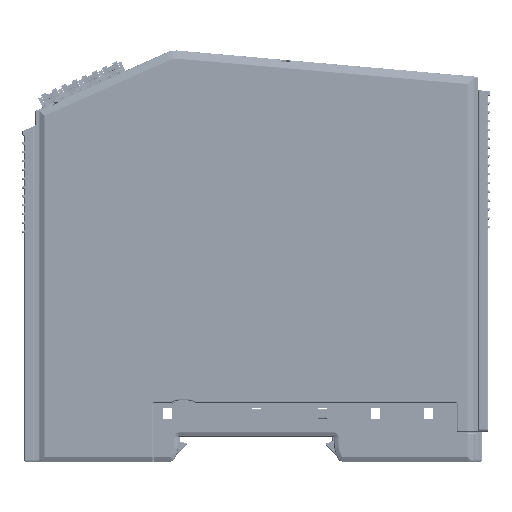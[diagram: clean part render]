
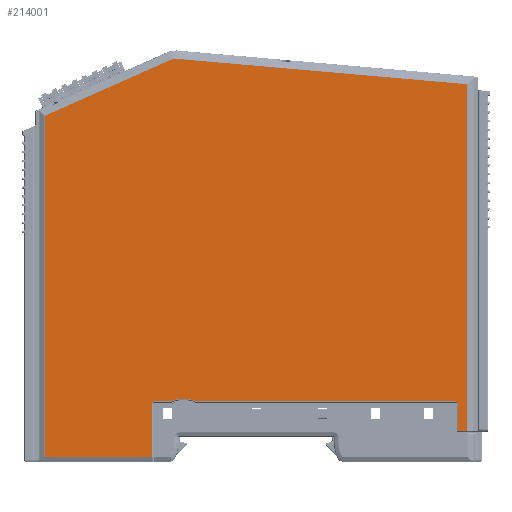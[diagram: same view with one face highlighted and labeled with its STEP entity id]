
A CAD part, left-side view. The second image highlights one B-rep face of the part: STEP entity #214001.
In plain terms, the highlighted planar face has unit normal (-1, 0, 0).
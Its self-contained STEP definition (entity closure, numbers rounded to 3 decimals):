
#6674 = CARTESIAN_POINT ( 'NONE',  ( -12., -47.807, 79.755 ) ) ;
#6956 = CARTESIAN_POINT ( 'NONE',  ( -12., 17.5, 8.508 ) ) ;
#8800 = VERTEX_POINT ( 'NONE', #241713 ) ;
#8927 = DIRECTION ( 'NONE',  ( 0., -1., 0. ) ) ;
#9955 = LINE ( 'NONE', #29107, #212397 ) ;
#10031 = CARTESIAN_POINT ( 'NONE',  ( -12., 15.5, 5.2 ) ) ;
#10258 = AXIS2_PLACEMENT_3D ( 'NONE', #142229, #10821, #186417 ) ;
#10821 = DIRECTION ( 'NONE',  ( 1., 0., 0. ) ) ;
#11517 = VERTEX_POINT ( 'NONE', #6956 ) ;
#13003 = VECTOR ( 'NONE', #233692, 1000. ) ;
#14109 = CARTESIAN_POINT ( 'NONE',  ( -12., -47.807, 79.815 ) ) ;
#15340 = VERTEX_POINT ( 'NONE', #279709 ) ;
#17557 = LINE ( 'NONE', #104189, #185812 ) ;
#18289 = AXIS2_PLACEMENT_3D ( 'NONE', #129826, #59824, #39697 ) ;
#20673 = ORIENTED_EDGE ( 'NONE', *, *, #281638, .T. ) ;
#21127 = EDGE_CURVE ( 'NONE', #277523, #174672, #182885, .T. ) ;
#25163 = VERTEX_POINT ( 'NONE', #69030 ) ;
#25614 = ORIENTED_EDGE ( 'NONE', *, *, #163551, .T. ) ;
#25957 = LINE ( 'NONE', #283057, #263071 ) ;
#26973 = CARTESIAN_POINT ( 'NONE',  ( -12., -45.65, 7.408 ) ) ;
#27100 = DIRECTION ( 'NONE',  ( 0., 0.996, 0.087 ) ) ;
#28750 = VECTOR ( 'NONE', #67845, 1000. ) ;
#29107 = CARTESIAN_POINT ( 'NONE',  ( -12., 0., 8.008 ) ) ;
#32083 = DIRECTION ( 'NONE',  ( 0., 0., -1. ) ) ;
#39697 = DIRECTION ( 'NONE',  ( 0., 0., -1. ) ) ;
#40284 = LINE ( 'NONE', #222929, #229179 ) ;
#40548 = LINE ( 'NONE', #123286, #13003 ) ;
#44436 = ORIENTED_EDGE ( 'NONE', *, *, #241541, .T. ) ;
#48530 = VERTEX_POINT ( 'NONE', #197816 ) ;
#50035 = ORIENTED_EDGE ( 'NONE', *, *, #255971, .T. ) ;
#51925 = LINE ( 'NONE', #56111, #165428 ) ;
#52043 = DIRECTION ( 'NONE',  ( 0., 0., -1. ) ) ;
#53372 = DIRECTION ( 'NONE',  ( 0., 0., -1. ) ) ;
#53830 = ORIENTED_EDGE ( 'NONE', *, *, #220168, .T. ) ;
#56111 = CARTESIAN_POINT ( 'NONE',  ( -12., 23.658, 0. ) ) ;
#58314 = DIRECTION ( 'NONE',  ( 0., 0., -1. ) ) ;
#59824 = DIRECTION ( 'NONE',  ( 1., 0., 0. ) ) ;
#61222 = EDGE_CURVE ( 'NONE', #174672, #134478, #231439, .T. ) ;
#63554 = VECTOR ( 'NONE', #213696, 1000. ) ;
#67187 = CARTESIAN_POINT ( 'NONE',  ( -12., -45.05, 8.008 ) ) ;
#67845 = DIRECTION ( 'NONE',  ( 0., -1., 0. ) ) ;
#69030 = CARTESIAN_POINT ( 'NONE',  ( -12., 23.658, 7.408 ) ) ;
#71839 = CARTESIAN_POINT ( 'NONE',  ( -12., -47.807, 1.4 ) ) ;
#73571 = DIRECTION ( 'NONE',  ( 0., 0., -1. ) ) ;
#74261 = LINE ( 'NONE', #211459, #197918 ) ;
#74504 = CARTESIAN_POINT ( 'NONE',  ( -12., 23.058, 7.408 ) ) ;
#78562 = FACE_OUTER_BOUND ( 'NONE', #142024, .T. ) ;
#79242 = ORIENTED_EDGE ( 'NONE', *, *, #212142, .T. ) ;
#79367 = AXIS2_PLACEMENT_3D ( 'NONE', #232057, #233971, #58314 ) ;
#81131 = VERTEX_POINT ( 'NONE', #246791 ) ;
#81401 = ORIENTED_EDGE ( 'NONE', *, *, #210331, .T. ) ;
#88398 = ORIENTED_EDGE ( 'NONE', *, *, #103421, .T. ) ;
#93650 = CARTESIAN_POINT ( 'NONE',  ( -12., 47.807, 72.623 ) ) ;
#95624 = DIRECTION ( 'NONE',  ( 1., 0., 0. ) ) ;
#95800 = ORIENTED_EDGE ( 'NONE', *, *, #21127, .T. ) ;
#101236 = ORIENTED_EDGE ( 'NONE', *, *, #162909, .T. ) ;
#101750 = AXIS2_PLACEMENT_3D ( 'NONE', #177001, #198995, #52043 ) ;
#103421 = EDGE_CURVE ( 'NONE', #134478, #153691, #135961, .T. ) ;
#104189 = CARTESIAN_POINT ( 'NONE',  ( -12., 47.78, 72.635 ) ) ;
#105764 = VERTEX_POINT ( 'NONE', #67187 ) ;
#107812 = PLANE ( 'NONE',  #18289 ) ;
#114283 = EDGE_CURVE ( 'NONE', #159467, #81131, #168716, .T. ) ;
#123286 = CARTESIAN_POINT ( 'NONE',  ( -12., 23.358, -4.533 ) ) ;
#124583 = ORIENTED_EDGE ( 'NONE', *, *, #143911, .T. ) ;
#129404 = AXIS2_PLACEMENT_3D ( 'NONE', #10031, #250926, #32083 ) ;
#129826 = CARTESIAN_POINT ( 'NONE',  ( -12., 0., 0. ) ) ;
#133647 = EDGE_CURVE ( 'NONE', #151245, #11517, #217456, .T. ) ;
#133740 = CARTESIAN_POINT ( 'NONE',  ( -12., 15.5, 8.508 ) ) ;
#134478 = VERTEX_POINT ( 'NONE', #71839 ) ;
#135127 = EDGE_CURVE ( 'NONE', #137022, #48530, #144965, .T. ) ;
#135961 = LINE ( 'NONE', #14109, #63554 ) ;
#137022 = VERTEX_POINT ( 'NONE', #133740 ) ;
#137584 = VECTOR ( 'NONE', #217861, 1000. ) ;
#142024 = EDGE_LOOP ( 'NONE', ( #95800, #142663, #88398, #151508, #231702, #124583, #53830, #25614, #79242, #81401, #50035, #217036, #20673, #247422, #101236, #44436 ) ) ;
#142229 = CARTESIAN_POINT ( 'NONE',  ( -12., -45.05, 7.408 ) ) ;
#142663 = ORIENTED_EDGE ( 'NONE', *, *, #61222, .T. ) ;
#143911 = EDGE_CURVE ( 'NONE', #81131, #183327, #17557, .T. ) ;
#144965 = CIRCLE ( 'NONE', #129404, 3.308 ) ;
#145212 = DIRECTION ( 'NONE',  ( 0., -1., 0. ) ) ;
#151245 = VERTEX_POINT ( 'NONE', #167225 ) ;
#151508 = ORIENTED_EDGE ( 'NONE', *, *, #171719, .T. ) ;
#153691 = VERTEX_POINT ( 'NONE', #6674 ) ;
#158895 = VECTOR ( 'NONE', #73571, 1000. ) ;
#159467 = VERTEX_POINT ( 'NONE', #219120 ) ;
#162909 = EDGE_CURVE ( 'NONE', #48530, #105764, #9955, .T. ) ;
#163551 = EDGE_CURVE ( 'NONE', #8800, #15340, #40548, .T. ) ;
#165428 = VECTOR ( 'NONE', #234633, 1000. ) ;
#167225 = CARTESIAN_POINT ( 'NONE',  ( -12., 19.249, 8.008 ) ) ;
#168716 = CIRCLE ( 'NONE', #101750, 3.111 ) ;
#170951 = AXIS2_PLACEMENT_3D ( 'NONE', #74504, #95624, #53372 ) ;
#171719 = EDGE_CURVE ( 'NONE', #153691, #159467, #40284, .T. ) ;
#174672 = VERTEX_POINT ( 'NONE', #219475 ) ;
#177001 = CARTESIAN_POINT ( 'NONE',  ( -12., 18.185, 82.406 ) ) ;
#182885 = LINE ( 'NONE', #228092, #158895 ) ;
#183327 = VERTEX_POINT ( 'NONE', #93650 ) ;
#185812 = VECTOR ( 'NONE', #257699, 1000. ) ;
#186417 = DIRECTION ( 'NONE',  ( 0., 0., -1. ) ) ;
#195565 = CARTESIAN_POINT ( 'NONE',  ( -12., 0., 1.4 ) ) ;
#197816 = CARTESIAN_POINT ( 'NONE',  ( -12., 13.751, 8.008 ) ) ;
#197918 = VECTOR ( 'NONE', #145212, 1000. ) ;
#198995 = DIRECTION ( 'NONE',  ( -1., 0., 0. ) ) ;
#210331 = EDGE_CURVE ( 'NONE', #25163, #267123, #255706, .T. ) ;
#211459 = CARTESIAN_POINT ( 'NONE',  ( -12., 0., 8.508 ) ) ;
#212142 = EDGE_CURVE ( 'NONE', #15340, #25163, #51925, .T. ) ;
#212397 = VECTOR ( 'NONE', #8927, 1000. ) ;
#213696 = DIRECTION ( 'NONE',  ( 0., 0., 1. ) ) ;
#214001 = ADVANCED_FACE ( 'NONE', ( #78562 ), #107812, .F. ) ;
#217036 = ORIENTED_EDGE ( 'NONE', *, *, #133647, .T. ) ;
#217456 = CIRCLE ( 'NONE', #79367, 3.308 ) ;
#217861 = DIRECTION ( 'NONE',  ( 0., 0., -1. ) ) ;
#219120 = CARTESIAN_POINT ( 'NONE',  ( -12., 17.914, 85.505 ) ) ;
#219475 = CARTESIAN_POINT ( 'NONE',  ( -12., -45.65, 1.4 ) ) ;
#219726 = CARTESIAN_POINT ( 'NONE',  ( -12., 47.807, 0. ) ) ;
#220168 = EDGE_CURVE ( 'NONE', #183327, #8800, #243915, .T. ) ;
#222929 = CARTESIAN_POINT ( 'NONE',  ( -12., 17.914, 85.505 ) ) ;
#228092 = CARTESIAN_POINT ( 'NONE',  ( -12., -45.65, 0. ) ) ;
#229179 = VECTOR ( 'NONE', #27100, 1000. ) ;
#231439 = LINE ( 'NONE', #195565, #28750 ) ;
#231702 = ORIENTED_EDGE ( 'NONE', *, *, #114283, .T. ) ;
#232057 = CARTESIAN_POINT ( 'NONE',  ( -12., 17.5, 5.2 ) ) ;
#233692 = DIRECTION ( 'NONE',  ( 0., -1., 0. ) ) ;
#233971 = DIRECTION ( 'NONE',  ( 1., 0., 0. ) ) ;
#234633 = DIRECTION ( 'NONE',  ( 0., 0., 1. ) ) ;
#241541 = EDGE_CURVE ( 'NONE', #105764, #277523, #261086, .T. ) ;
#241713 = CARTESIAN_POINT ( 'NONE',  ( -12., 47.807, -4.533 ) ) ;
#242503 = CARTESIAN_POINT ( 'NONE',  ( -12., 23.058, 8.008 ) ) ;
#243915 = LINE ( 'NONE', #219726, #137584 ) ;
#246791 = CARTESIAN_POINT ( 'NONE',  ( -12., 19.45, 85.248 ) ) ;
#247422 = ORIENTED_EDGE ( 'NONE', *, *, #135127, .T. ) ;
#250926 = DIRECTION ( 'NONE',  ( 1., 0., 0. ) ) ;
#255706 = CIRCLE ( 'NONE', #170951, 0.6 ) ;
#255971 = EDGE_CURVE ( 'NONE', #267123, #151245, #25957, .T. ) ;
#257699 = DIRECTION ( 'NONE',  ( 0., 0.914, -0.407 ) ) ;
#261086 = CIRCLE ( 'NONE', #10258, 0.6 ) ;
#263071 = VECTOR ( 'NONE', #268649, 1000. ) ;
#267123 = VERTEX_POINT ( 'NONE', #242503 ) ;
#268649 = DIRECTION ( 'NONE',  ( 0., -1., 0. ) ) ;
#277523 = VERTEX_POINT ( 'NONE', #26973 ) ;
#279709 = CARTESIAN_POINT ( 'NONE',  ( -12., 23.658, -4.533 ) ) ;
#281638 = EDGE_CURVE ( 'NONE', #11517, #137022, #74261, .T. ) ;
#283057 = CARTESIAN_POINT ( 'NONE',  ( -12., 0., 8.008 ) ) ;
